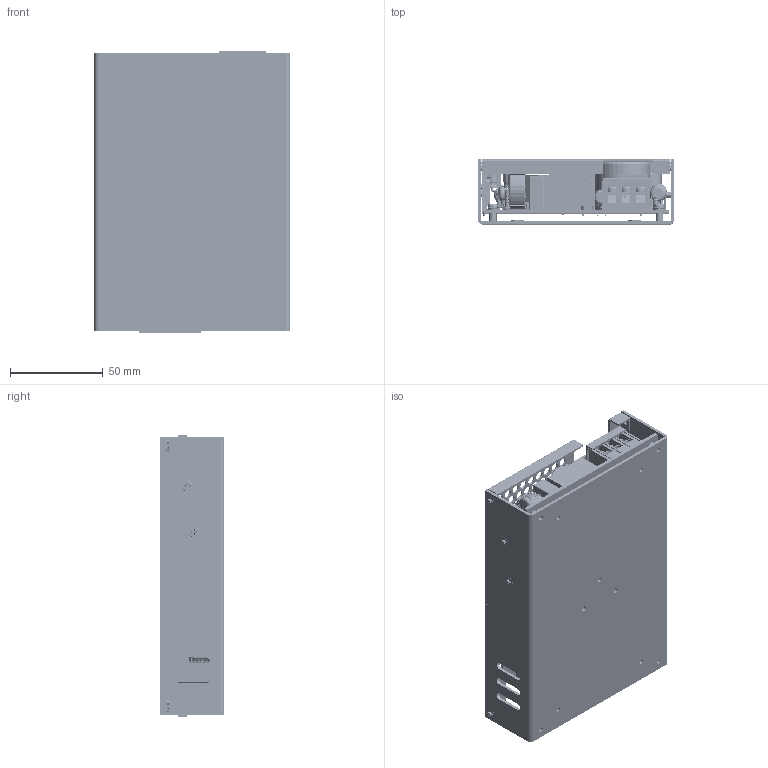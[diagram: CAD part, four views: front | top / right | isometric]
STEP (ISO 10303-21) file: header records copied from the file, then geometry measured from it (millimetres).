
FILE_DESCRIPTION((''),'2;1');
FILE_NAME('AQF240E_ASM','2016-02-03T',('arch'),(''),'PRO/ENGINEER BY PARAMETRIC TECHNOLOGY CORPORATION, 2008380','PRO/ENGINEER BY PARAMETRIC TECHNOLOGY CORPORATION, 2008380','');
FILE_SCHEMA(('AUTOMOTIVE_DESIGN { 1 2 10303 214 0 1 1 1 }'));
Length unit declared in the file: millimetre
Products named in the file (151): PRODUCT_160209; PRODUCT_160211; ________2_ASM_ASM_ASM_ASM_ASM_A_ASM; ______1; PRODUCT_160210_ASM_ASM_ASM_ASM__ASM; PRODUCT_160213; PRODUCT_160214; FILLET1-102072; ____1; LPATTERN1_1_; LPATTERN1_2_; LPATTERN1_3_; LPATTERN1_4_; LPATTERN1_5_; LPATTERN1_6_; LPATTERN1_7_; XX_ASM_ASM_ASM_ASM_ASM_ASM_ASM__ASM; PRODUCT_160216; YJ; LPATTERN4_2_; LPATTERN4_3_; LPATTERN4_4_; LPATTERN4_5_; LPATTERN4_1_; LPATTERN4_6_; LPATTERN4_7_; REVOLVE5; LPATTERN7_1_; LPATTERN7_2_; LPATTERN7_3_; LPATTERN7_4_; LPATTERN7_5_; LPATTERN7_6_; LPATTERN7_7_; NONE; MIRROR7; REVOLVE6_1_; REVOLVE6_2_; REVOLVE6_3_; REVOLVE6_4_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
Assembly tree (189 placements, depth 12):
  AQF240E_ASM
    AQF240E_ASM_ASM
      AQF240E_ASM_ASM_ASM
        AQF240E_ASM_ASM_ASM_ASM
          AQF240E_ASM_ASM_ASM_ASM_ASM
            AQF240E_ASM_ASM_ASM_ASM_-239340_ASM
              AQF240E_ASM_ASM_ASM_ASM_-235427_ASM
                AQF240U_ASM_ASM_ASM_ASM_ASM_ASM_ASM
                  AQF240_ASM_ASM_ASM_ASM_ASM_ASM__ASM
                  PRT0011
                  M35  x4
                SCREW_M3_6MM_ASM_ASM_ASM_ASM_AS_ASM  x4
                  SCREW_CH_W__M3_6MM_ASM_ASM_ASM__ASM
                PRT0014  x4
        AQF240_4
      DUANZITAIGAI-4_1
    DUANZI-3PIN-KA
    DUANZITAIGAI-3
    DUANZI-4PIN-KA
Bounding box: 106.1 x 35 x 152.25 mm (x, y, z)
Volume: 208743.7 mm3; surface area: 181325.1 mm2
Topology: 176 solids, 185 shells, 6776 faces, 17737 edges, 11400 vertices
Faces by surface type: plane 3169, cylinder 2372, torus 893, bspline 146, cone 116, sphere 64, revolution 16
Entity records: 244091 total; most frequent: CARTESIAN_POINT 37431, DIRECTION 30335, ORIENTED_EDGE 28320, PRESENTATION_STYLE_ASSIGNMENT 15029, EDGE_CURVE 14166, STYLED_ITEM 12237, CURVE_STYLE 11639, AXIS2_PLACEMENT_3D 10662
